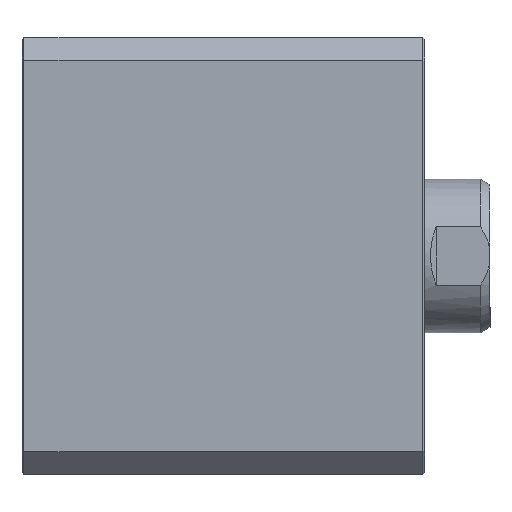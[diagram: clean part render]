
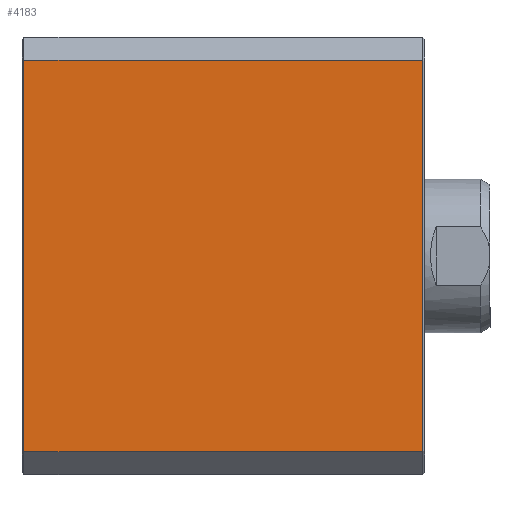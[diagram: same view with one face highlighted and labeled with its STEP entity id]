
A CAD part, left-side view. The second image highlights one B-rep face of the part: STEP entity #4183.
In plain terms, the highlighted planar face has unit normal (-1, 0, 0).
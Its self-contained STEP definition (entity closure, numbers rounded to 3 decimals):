
#246=LINE('',#6051,#540);
#249=LINE('',#6057,#543);
#250=LINE('',#6060,#544);
#251=LINE('',#6061,#545);
#540=VECTOR('',#4943,1000.);
#543=VECTOR('',#4948,1000.);
#544=VECTOR('',#4949,1000.);
#545=VECTOR('',#4950,1000.);
#726=PLANE('',#4416);
#1185=ORIENTED_EDGE('',*,*,#1842,.F.);
#1186=ORIENTED_EDGE('',*,*,#1843,.T.);
#1187=ORIENTED_EDGE('',*,*,#1839,.T.);
#1188=ORIENTED_EDGE('',*,*,#1844,.T.);
#1839=EDGE_CURVE('',#2171,#2172,#246,.T.);
#1842=EDGE_CURVE('',#2173,#2174,#249,.T.);
#1843=EDGE_CURVE('',#2173,#2171,#250,.T.);
#1844=EDGE_CURVE('',#2172,#2174,#251,.T.);
#2171=VERTEX_POINT('',#6052);
#2172=VERTEX_POINT('',#6053);
#2173=VERTEX_POINT('',#6058);
#2174=VERTEX_POINT('',#6059);
#2414=EDGE_LOOP('',(#1185,#1186,#1187,#1188));
#2650=FACE_BOUND('',#2414,.T.);
#4183=ADVANCED_FACE('',(#2650),#726,.T.);
#4416=AXIS2_PLACEMENT_3D('',#6056,#4946,#4947);
#4943=DIRECTION('',(0.,-1.,0.));
#4946=DIRECTION('',(-1.,0.,0.));
#4947=DIRECTION('',(0.,-1.,0.));
#4948=DIRECTION('',(0.,-1.,0.));
#4949=DIRECTION('',(0.,0.,-1.));
#4950=DIRECTION('',(0.,0.,1.));
#6051=CARTESIAN_POINT('',(-57.022,105.,-51.));
#6052=CARTESIAN_POINT('',(-57.022,104.5,-51.));
#6053=CARTESIAN_POINT('',(-57.022,0.5,-51.));
#6056=CARTESIAN_POINT('',(-57.022,105.,51.));
#6057=CARTESIAN_POINT('',(-57.022,105.,51.));
#6058=CARTESIAN_POINT('',(-57.022,104.5,51.));
#6059=CARTESIAN_POINT('',(-57.022,0.5,51.));
#6060=CARTESIAN_POINT('',(-57.022,104.5,-51.));
#6061=CARTESIAN_POINT('',(-57.022,0.5,51.));
